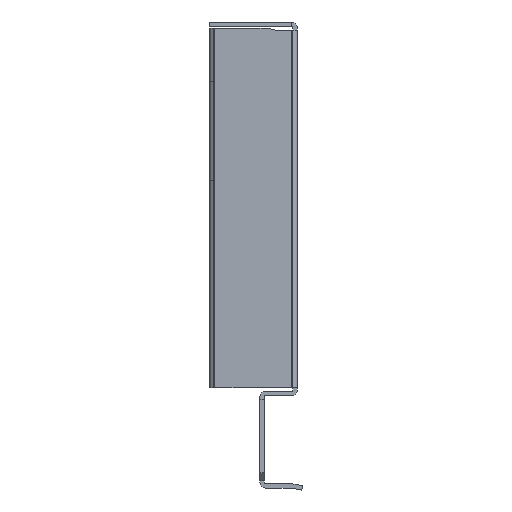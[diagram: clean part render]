
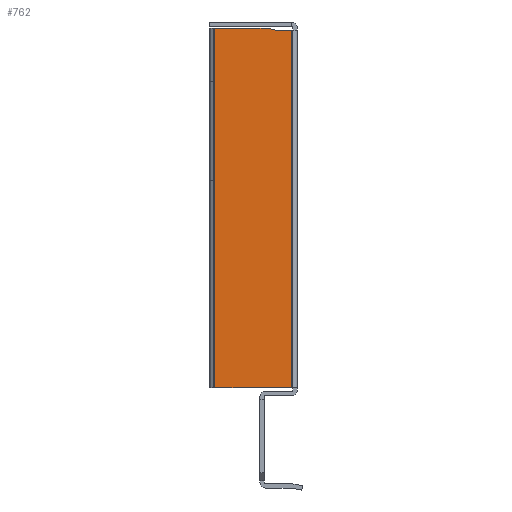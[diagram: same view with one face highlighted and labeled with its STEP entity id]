
A CAD part, left-side view. The second image highlights one B-rep face of the part: STEP entity #762.
In plain terms, the highlighted planar face has unit normal (-1, 0, 0).
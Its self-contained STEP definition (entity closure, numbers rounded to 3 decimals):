
#20 = DIRECTION ( 'NONE',  ( 0., -1., 0. ) ) ;
#22 = DIRECTION ( 'NONE',  ( -1., 0., 0. ) ) ;
#23 = CARTESIAN_POINT ( 'NONE',  ( -555., -5., 101.385 ) ) ;
#24 = PLANE ( 'NONE',  #651 ) ;
#56 = VERTEX_POINT ( 'NONE', #437 ) ;
#76 = VERTEX_POINT ( 'NONE', #432 ) ;
#125 = VERTEX_POINT ( 'NONE', #420 ) ;
#135 = VERTEX_POINT ( 'NONE', #418 ) ;
#262 = DIRECTION ( 'NONE',  ( 0., 0., -1. ) ) ;
#263 = CARTESIAN_POINT ( 'NONE',  ( -555., -5., 101.385 ) ) ;
#265 = DIRECTION ( 'NONE',  ( 0., -0.966, -0.259 ) ) ;
#266 = CARTESIAN_POINT ( 'NONE',  ( -555., 0.612, 83.2 ) ) ;
#267 = DIRECTION ( 'NONE',  ( 0., -1., 0. ) ) ;
#268 = CARTESIAN_POINT ( 'NONE',  ( -555., -2., 82.5 ) ) ;
#270 = DIRECTION ( 'NONE',  ( 0., 0., -1. ) ) ;
#271 = CARTESIAN_POINT ( 'NONE',  ( -555., 9., 101.385 ) ) ;
#278 = VERTEX_POINT ( 'NONE', #388 ) ;
#332 = CARTESIAN_POINT ( 'NONE',  ( -555., 9., 17.5 ) ) ;
#388 = CARTESIAN_POINT ( 'NONE',  ( -555., 9., 82.9 ) ) ;
#418 = CARTESIAN_POINT ( 'NONE',  ( -555., -5., 82.5 ) ) ;
#420 = CARTESIAN_POINT ( 'NONE',  ( -555., -2., 82.5 ) ) ;
#432 = CARTESIAN_POINT ( 'NONE',  ( -555., -0.507, 82.9 ) ) ;
#437 = CARTESIAN_POINT ( 'NONE',  ( -555., -5., 17.5 ) ) ;
#516 = VERTEX_POINT ( 'NONE', #332 ) ;
#553 = EDGE_CURVE ( 'NONE', #278, #516, #1952, .T. ) ;
#554 = EDGE_CURVE ( 'NONE', #125, #135, #1955, .T. ) ;
#555 = EDGE_CURVE ( 'NONE', #76, #125, #1957, .T. ) ;
#556 = EDGE_CURVE ( 'NONE', #135, #56, #1959, .T. ) ;
#651 = AXIS2_PLACEMENT_3D ( 'NONE', #23, #22, #20 ) ;
#762 = ADVANCED_FACE ( 'NONE', ( #2097 ), #24, .T. ) ;
#844 = EDGE_CURVE ( 'NONE', #56, #516, #2205, .T. ) ;
#853 = EDGE_CURVE ( 'NONE', #76, #278, #2220, .T. ) ;
#1070 = EDGE_LOOP ( 'NONE', ( #1833, #1834, #1835, #1836, #1837, #1838 ) ) ;
#1215 = DIRECTION ( 'NONE',  ( 0., 1., 0. ) ) ;
#1218 = CARTESIAN_POINT ( 'NONE',  ( -555., -5., 82.9 ) ) ;
#1345 = CARTESIAN_POINT ( 'NONE',  ( -555., -5., 17.5 ) ) ;
#1363 = DIRECTION ( 'NONE',  ( 0., 1., 0. ) ) ;
#1833 = ORIENTED_EDGE ( 'NONE', *, *, #554, .F. ) ;
#1834 = ORIENTED_EDGE ( 'NONE', *, *, #555, .F. ) ;
#1835 = ORIENTED_EDGE ( 'NONE', *, *, #853, .T. ) ;
#1836 = ORIENTED_EDGE ( 'NONE', *, *, #553, .T. ) ;
#1837 = ORIENTED_EDGE ( 'NONE', *, *, #844, .F. ) ;
#1838 = ORIENTED_EDGE ( 'NONE', *, *, #556, .F. ) ;
#1952 = LINE ( 'NONE', #271, #1954 ) ;
#1954 = VECTOR ( 'NONE', #270, 1000. ) ;
#1955 = LINE ( 'NONE', #268, #1956 ) ;
#1956 = VECTOR ( 'NONE', #267, 1000. ) ;
#1957 = LINE ( 'NONE', #266, #1958 ) ;
#1958 = VECTOR ( 'NONE', #265, 1000. ) ;
#1959 = LINE ( 'NONE', #263, #1960 ) ;
#1960 = VECTOR ( 'NONE', #262, 1000. ) ;
#2097 = FACE_OUTER_BOUND ( 'NONE', #1070, .T. ) ;
#2205 = LINE ( 'NONE', #1345, #2207 ) ;
#2207 = VECTOR ( 'NONE', #1363, 1000. ) ;
#2220 = LINE ( 'NONE', #1218, #2222 ) ;
#2222 = VECTOR ( 'NONE', #1215, 1000. ) ;
